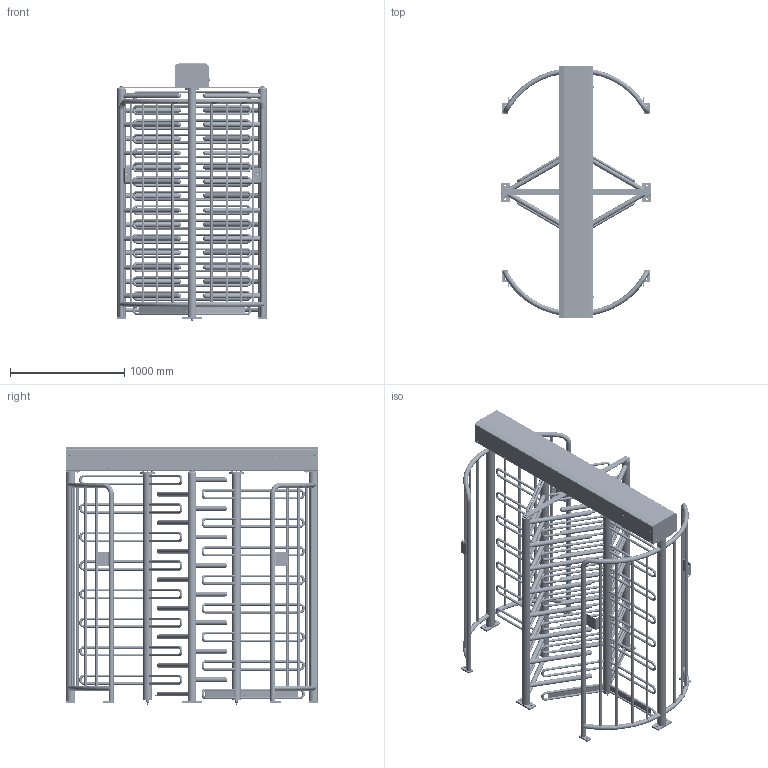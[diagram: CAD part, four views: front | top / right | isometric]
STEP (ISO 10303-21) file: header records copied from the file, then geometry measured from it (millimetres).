
FILE_DESCRIPTION(/* description */ ('Unknown'),/* implementation_level */ '2;1');
FILE_NAME(/* name */ '55870026_00',/* time_stamp */ '2026-04-23T09:22:54+02:00',/* author */ ('Unknown'),/* organization */ ('Unknown'),/* preprocessor_version */ 'ST-DEVELOPER v18.104',/* originating_system */ 'Solid Edge',/* authorisation */ 'Unknown');
FILE_SCHEMA (('AUTOMOTIVE_DESIGN {1 0 10303 214 3 1 1}'));
Products named in the file (1): 55870026
Bounding box: 1318 x 2210 x 2253.09 mm (x, y, z)
Volume: 45695703 mm3; surface area: 30041144.5 mm2
Topology: 284 solids, 284 shells, 4650 faces, 11184 edges, 7194 vertices
Faces by surface type: plane 2571, cylinder 1333, cone 494, torus 176, bspline 42, sphere 34
Full cylindrical faces by diameter (mm): 0.1 x12, 2 x2, 3.3 x2, 4 x12, 4.2 x7, 4.3 x4, 4.4 x2, 4.5 x4, 5 x10, 5.3 x8, 5.5 x14, 5.9 x4, 6 x14, 6.5 x2, 6.8 x6, 7 x10, 7.5 x4, 8 x15, 8.16 x2, 8.376 x2, 8.5 x90, 9 x4, 10 x8, 10.106 x12, 10.156 x10, 10.2 x2, 10.5 x2, 10.7 x2, 11 x2, 12 x12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
Entity records: 182676 total; most frequent: CARTESIAN_POINT 78755, DIRECTION 19996, ORIENTED_EDGE 17640, EDGE_CURVE 8820, AXIS2_PLACEMENT_3D 7887, FACE_BOUND 7648, EDGE_LOOP 7602, VERTEX_POINT 6680
